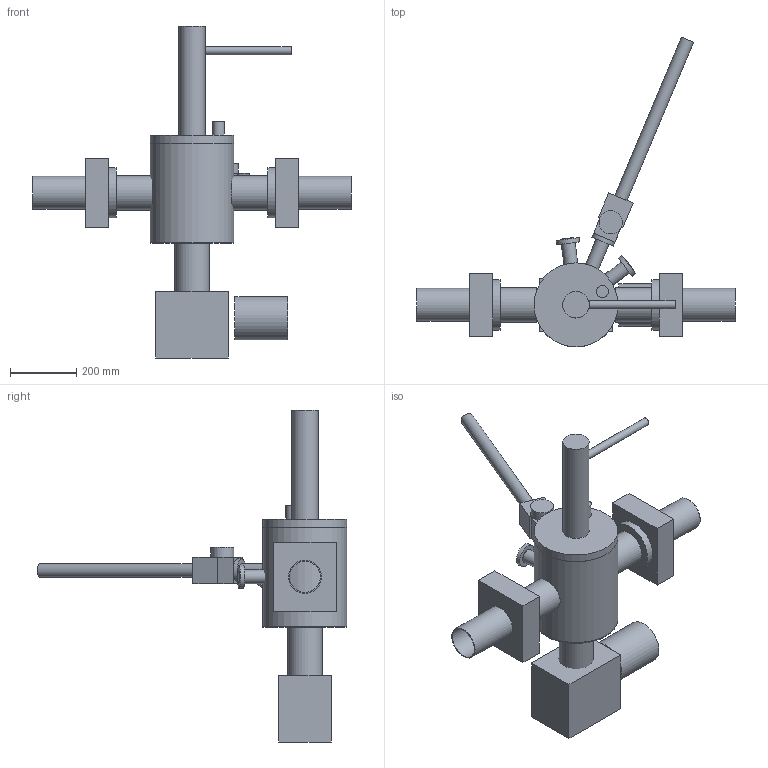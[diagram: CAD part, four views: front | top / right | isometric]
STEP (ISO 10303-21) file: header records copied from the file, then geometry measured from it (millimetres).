
FILE_DESCRIPTION(('Open CASCADE Model'),'2;1');
FILE_NAME('Open CASCADE Shape Model','2026-11-13T06:51:54',('Author'),( 'Open CASCADE'),'Open CASCADE STEP processor 7.9','Open CASCADE 7.9' ,'Unknown');
FILE_SCHEMA(('AUTOMOTIVE_DESIGN { 1 0 10303 214 1 1 1 1 }'));
Length unit declared in the file: millimetre
Products named in the file (45): T3_FEL_film_station; 00_PLATE; 01_FILM; 02_CPW_PAD_-1; 03_CPW_PAD_+1; 04_FARADAY_SENSOR; 05_FRAME; 06_CLAMP; 07_FIELD_COIL; 08_RTD; 09_CERNOX; 10_RECEIVER; 11_COLD_FINGER; 12_SHIELD; 13_COAX_1; 14_COAX_2; 15_CHAMBER; 16_TOP_FLANGE; 17_BOTTOM_PLATE; 18_CRYOSTAT; 19_TRANSFER_LINE; 20_RF_FEEDTHROUGH; 21_BEAM_PORT_-1; 22_BEAM_FLANGE_-1; 23_GATE_VALVE_-1; 24_BEAM_PIPE_-1; 25_BEAM_PORT_+1; 26_BEAM_FLANGE_+1; 27_GATE_VALVE_+1; 28_BEAM_PIPE_+1; 29_VIEWPORT_IN; 30_VIEWPORT_IN_FLANGE; 31_WINDOW_IN; 32_VIEWPORT_OUT; 33_VIEWPORT_OUT_FLANGE; 34_WINDOW_OUT; 35_TRANSFER_PORT; 36_TRANSFER_PORT_FLANGE; 37_LL_VALVE; 38_LOAD_LOCK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
Assembly tree (44 placements, depth 2):
  T3_FEL_film_station
    00_PLATE
    01_FILM
    02_CPW_PAD_-1
    03_CPW_PAD_+1
    04_FARADAY_SENSOR
    05_FRAME
    06_CLAMP
    07_FIELD_COIL
    08_RTD
    09_CERNOX
    10_RECEIVER
    11_COLD_FINGER
    12_SHIELD
    13_COAX_1
    14_COAX_2
    15_CHAMBER
    16_TOP_FLANGE
    17_BOTTOM_PLATE
    18_CRYOSTAT
    19_TRANSFER_LINE
    20_RF_FEEDTHROUGH
    21_BEAM_PORT_-1
    22_BEAM_FLANGE_-1
    23_GATE_VALVE_-1
    24_BEAM_PIPE_-1
    25_BEAM_PORT_+1
    26_BEAM_FLANGE_+1
    27_GATE_VALVE_+1
    28_BEAM_PIPE_+1
    29_VIEWPORT_IN
    30_VIEWPORT_IN_FLANGE
    31_WINDOW_IN
    32_VIEWPORT_OUT
    33_VIEWPORT_OUT_FLANGE
    34_WINDOW_OUT
    35_TRANSFER_PORT
    36_TRANSFER_PORT_FLANGE
    37_LL_VALVE
    38_LOAD_LOCK
    39_TRANSFER_ARM
    40_SUITCASE_PORT
    41_PUMP_PORT
    42_ION_PUMP
    43_TURBO
Bounding box: 964 x 937.75 x 1005 mm (x, y, z)
Volume: 20383119.7 mm3; surface area: 2213479.4 mm2
Topology: 44 solids, 44 shells, 211 faces, 369 edges, 246 vertices
Faces by surface type: plane 164, cylinder 47
Full cylindrical faces by diameter (mm): 2.2 x2, 20 x1, 24 x1, 36 x1, 38 x8, 40 x1, 42 x3, 44 x1, 48 x1, 60 x1, 70 x4, 80 x1, 94 x2, 98 x1, 99 x4, 100 x5, 104 x3, 130 x1, 152 x2, 248 x1, 254 x3
Entity records: 11013 total; most frequent: DIRECTION 1711, CARTESIAN_POINT 1621, LINE 919, VECTOR 919, ORIENTED_EDGE 738, PCURVE 738, DEFINITIONAL_REPRESENTATION 738, EDGE_CURVE 369
